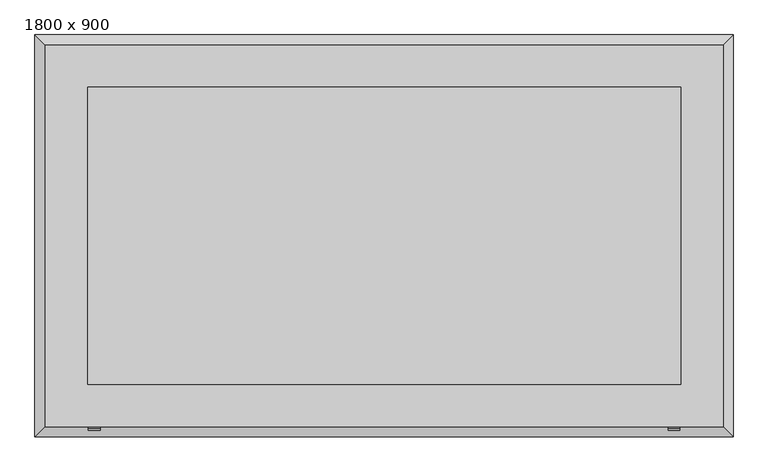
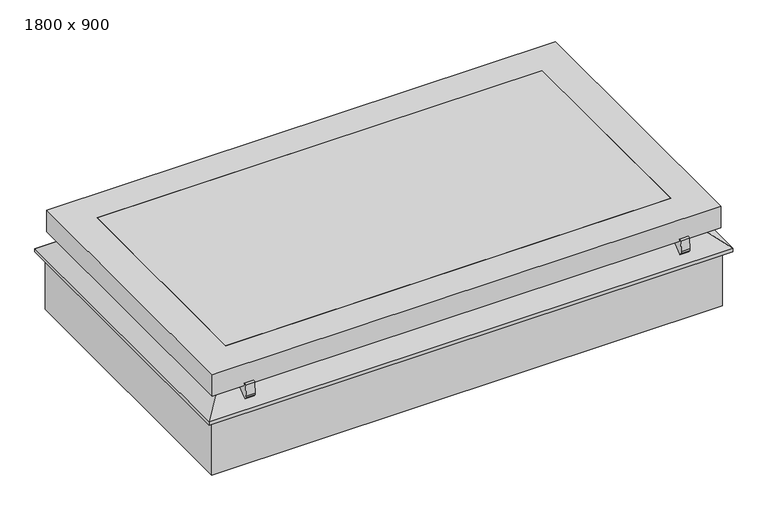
"""IFC4 building model written with IfcOpenShell, lengths in millimetres: proxy geometry, 4_Topaccess_dakluik_1800x900_Staka : 1800 x 900."""

from ifc_helpers import new_model, si_unit, point, frame, frame_2d, origin, place, context, project, spatial, polyline, circle_curve, trimmed, segment, composite_curve, outline, extrude, faceted_brep, source, transform, mapped, element, save


def proxy_1800_x_900_1d037618(model_context):
    return source(origin(), model_context, "Body", "SolidModel", [
        extrude(outline(composite_curve([segment(polyline([(-302.711611, 315.0730348), (-349.5637396, 277.5913319), (-356.6205052, 286.4122889)]), True, "CONTINUOUS"), segment(trimmed(circle_curve(frame_2d((-342.0155368, 294.972668)), 16.9288273), [point((-356.6205052, 286.4122889))], [point((-358.9229191, 295.8244977))], False, "CARTESIAN"), True, "CONTINUOUS"), segment(polyline([(-358.9229191, 295.8244977), (-354.6794851, 338.8702959)]), True, "CONTINUOUS"), segment(trimmed(circle_curve(frame_2d((-348.2257803, 336.7195897)), 6.8026351), [point((-354.6794851, 338.8702959))], [point((-341.4884418, 335.7793158))], False, "CARTESIAN"), True, "CONTINUOUS"), segment(trimmed(circle_curve(frame_2d((-333.9382435, 334.7255979)), 7.623373), [point((-341.4884418, 335.7793158))], [point((-336.5780951, 327.5738849))], True, "CARTESIAN"), True, "CONTINUOUS"), segment(polyline([(-336.5780951, 327.5738849), (-302.711611, 315.0730348)]), True, "CONTINUOUS")], self_intersect=False)), frame((-1631.2697623, 0.0, 0.0), z_axis=(1.0, 0.0, 0.0), x_axis=(0.0, 1.0, 0.0)), (0.0, 0.0, 1.0), 36.756804),
        extrude(outline(composite_curve([segment(polyline([(-302.711611, 315.0730348), (-349.5637396, 277.5913319), (-356.6205052, 286.4122889)]), True, "CONTINUOUS"), segment(trimmed(circle_curve(frame_2d((-342.0155368, 294.972668)), 16.9288273), [point((-356.6205052, 286.4122889))], [point((-358.9229191, 295.8244977))], False, "CARTESIAN"), True, "CONTINUOUS"), segment(polyline([(-358.9229191, 295.8244977), (-354.6794851, 338.8702959)]), True, "CONTINUOUS"), segment(trimmed(circle_curve(frame_2d((-348.2257803, 336.7195897)), 6.8026351), [point((-354.6794851, 338.8702959))], [point((-341.4884418, 335.7793158))], False, "CARTESIAN"), True, "CONTINUOUS"), segment(trimmed(circle_curve(frame_2d((-333.9382435, 334.7255979)), 7.623373), [point((-341.4884418, 335.7793158))], [point((-336.5780951, 327.5738849))], True, "CARTESIAN"), True, "CONTINUOUS"), segment(polyline([(-336.5780951, 327.5738849), (-302.711611, 315.0730348)]), True, "CONTINUOUS")], self_intersect=False)), frame((133.4587171, 0.0, 0.0), z_axis=(1.0, 0.0, 0.0), x_axis=(0.0, 1.0, 0.0)), (0.0, 0.0, 1.0), 35.2715206),
        faceted_brep([(238.7302377, 753.4470955, 328.0), (330.7302377, 845.4470955, 254.4), (-1793.2697623, 845.4470955, 254.4), (-1701.2697623, 753.4470955, 328.0), (194.7302377, 709.4470955, 282.0), (214.2560792, 728.9729371, 328.0), (-1676.7956039, 728.9729371, 328.0), (-1657.2697623, 709.4470955, 282.0), (168.7302377, 683.4470955, 0.0), (168.7302377, 683.4470955, 282.0), (-1631.2697623, 683.4470955, 282.0), (-1631.2697623, 683.4470955, 0.0), (304.7302377, 819.4470955, 240.0), (304.7302377, 819.4470955, 0.0), (-1767.2697623, 819.4470955, 0.0), (-1767.2697623, 819.4470955, 240.0), (330.7302377, 845.4470955, 240.0), (-1793.2697623, 845.4470955, 240.0), (-1793.2697623, -378.5529045, 254.4), (-1701.2697623, -286.5529045, 328.0), (-1676.7956039, -262.078746, 328.0), (-1657.2697623, -242.5529045, 282.0), (-1631.2697623, -216.5529045, 282.0), (-1631.2697623, -216.5529045, 0.0), (-1767.2697623, -352.5529045, 0.0), (-1767.2697623, -352.5529045, 240.0), (-1793.2697623, -378.5529045, 240.0), (330.7302377, -378.5529045, 254.4), (238.7302377, -286.5529045, 328.0), (214.2560792, -262.078746, 328.0), (194.7302377, -242.5529045, 282.0), (168.7302377, -216.5529045, 282.0), (168.7302377, -216.5529045, 0.0), (304.7302377, -352.5529045, 0.0), (304.7302377, -352.5529045, 240.0), (330.7302377, -378.5529045, 240.0)], [[[0, 1, 2, 3]], [[4, 5, 6, 7]], [[8, 9, 10, 11]], [[12, 13, 14, 15]], [[1, 16, 17, 2]], [[3, 2, 18, 19]], [[7, 6, 20, 21]], [[11, 10, 22, 23]], [[15, 14, 24, 25]], [[2, 17, 26, 18]], [[19, 18, 27, 28]], [[21, 20, 29, 30]], [[23, 22, 31, 32]], [[25, 24, 33, 34]], [[18, 26, 35, 27]], [[28, 27, 1, 0]], [[3, 19, 28, 0], [5, 29, 20, 6]], [[30, 29, 5, 4]], [[7, 21, 30, 4], [9, 31, 22, 10]], [[32, 31, 9, 8]], [[13, 33, 24, 14], [11, 23, 32, 8]], [[34, 33, 13, 12]], [[16, 35, 26, 17], [15, 25, 34, 12]], [[27, 35, 16, 1]]]),
        extrude(outline(polyline([(-1633.2725908, 685.5846734), (171.7274092, 685.5846734), (171.7274092, -218.4153266), (-1633.2725908, -218.4153266), (-1633.2725908, 685.5846734)])), frame((0.0, 0.0, 287.0), z_axis=(0.0, 0.0, 1.0), x_axis=(1.0, 0.0, 0.0)), (0.0, 0.0, 1.0), 139.4),
        faceted_brep([(171.7274092, 685.5846734, 287.0), (171.7274092, 685.5846734, 426.4), (-1633.2725908, 685.5846734, 426.4), (-1633.2725908, 685.5846734, 287.0), (214.7274092, 728.5846734, 333.4), (197.1274092, 710.9846734, 287.0), (-1658.6725908, 710.9846734, 287.0), (-1676.2725908, 728.5846734, 333.4), (300.7274092, 814.5846734, 426.4), (300.7274092, 814.5846734, 333.4), (-1762.2725908, 814.5846734, 333.4), (-1762.2725908, 814.5846734, 426.4), (-1633.2725908, -218.4153266, 426.4), (-1633.2725908, -218.4153266, 287.0), (-1658.6725908, -243.8153266, 287.0), (-1676.2725908, -261.4153266, 333.4), (-1762.2725908, -347.4153266, 333.4), (-1762.2725908, -347.4153266, 426.4), (171.7274092, -218.4153266, 426.4), (171.7274092, -218.4153266, 287.0), (197.1274092, -243.8153266, 287.0), (214.7274092, -261.4153266, 333.4), (300.7274092, -347.4153266, 333.4), (300.7274092, -347.4153266, 426.4)], [[[0, 1, 2, 3]], [[4, 5, 6, 7]], [[8, 9, 10, 11]], [[3, 2, 12, 13]], [[7, 6, 14, 15]], [[11, 10, 16, 17]], [[13, 12, 18, 19]], [[15, 14, 20, 21]], [[17, 16, 22, 23]], [[19, 18, 1, 0]], [[5, 20, 14, 6], [3, 13, 19, 0]], [[21, 20, 5, 4]], [[9, 22, 16, 10], [7, 15, 21, 4]], [[23, 22, 9, 8]], [[11, 17, 23, 8], [1, 18, 12, 2]]]),
    ])


if __name__ == "__main__":
    model = new_model("IFC4")
    model_context = context("Model", 3, world=origin())
    ifc_project = project(units=[si_unit("LENGTHUNIT", "METRE", prefix="MILLI")], contexts=[model_context])
    site = spatial("IfcSite", under=ifc_project)
    building = spatial("IfcBuilding", under=site)
    placement = place(None, origin())
    proxy_1800_x_900_shape = proxy_1800_x_900_1d037618(model_context)
    element("IfcBuildingElementProxy", 1, Name="4_Topaccess_dakluik_1800x900_Staka : 1800 x 900", ObjectType="4_Topaccess_dakluik_1800x900_Staka : 1800 x 900", at=placement, inside=building, context=model_context, shape_type="MappedRepresentation", body=[
        mapped(proxy_1800_x_900_shape, transform((0.0, 0.0, 0.0), x_axis=(1.0, 0.0, 0.0), y_axis=(0.0, 1.0, 0.0), z_axis=(0.0, 0.0, 1.0))),
    ])
    save(model, "model.ifc")
